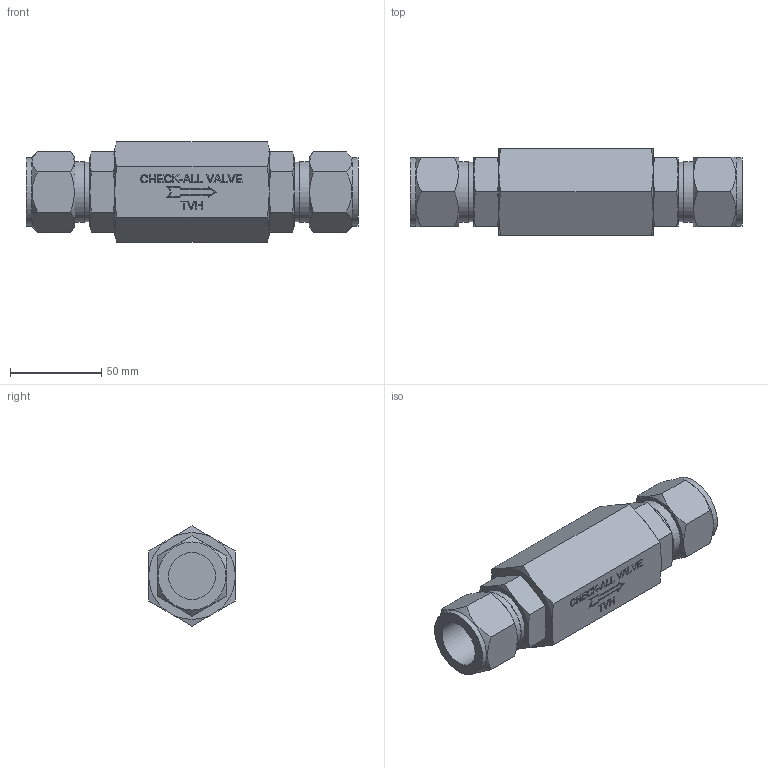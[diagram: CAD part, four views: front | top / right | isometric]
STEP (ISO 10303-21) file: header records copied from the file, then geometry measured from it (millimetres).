
FILE_DESCRIPTION( ( 'Unknown' ), '1' );
FILE_NAME( 'Y:/ENGR/3D Solid Edge Models/TV/stp/TVH.stp', 'Unknown', ( 'Unknown' ), ( 'Unknown' ), 'PSStep 16.0.42', 'Unknown', ' ' );
FILE_SCHEMA( ( 'AUTOMOTIVE_DESIGN { 1 0 10303 214 1 1 1 1 }' ) );
Length unit declared in the file: millimetre
Products named in the file (1): 1
Bounding box: 182.3 x 47.62 x 54.99 mm (x, y, z)
Volume: 251352.9 mm3; surface area: 36361.6 mm2
Topology: 1 solids, 1 shells, 276 faces, 691 edges, 448 vertices
Faces by surface type: extrusion 141, plane 87, cone 40, cylinder 8
Full cylindrical faces by diameter (mm): 25.654 x2, 32.832 x2, 33.337 x2, 37.363 x2
Entity records: 11621 total; most frequent: CARTESIAN_POINT 2898, ORIENTED_EDGE 1350, DIRECTION 891, EDGE_CURVE 675, VECTOR 511, VERTEX_POINT 444, B_SPLINE_CURVE_WITH_KNOTS 392, PRESENTATION_STYLE_ASSIGNMENT 383
